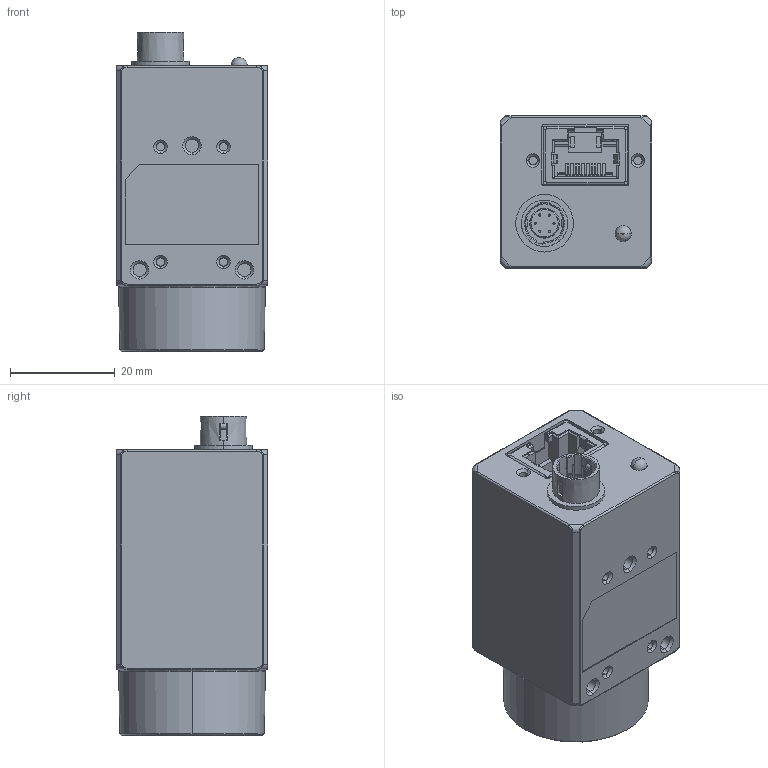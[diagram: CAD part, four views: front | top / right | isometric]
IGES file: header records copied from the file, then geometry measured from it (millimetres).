
Start section:  PTC IGES file: MV-CA004-10GMGC.igs
Global section: file name: MV-CA004-10GMGC.igs; native system: Creo Parametric by PTC Inc.; preprocessor: 2017260; author: wangyijun6; organization: Unknown; date: 20200309.200921; units: millimetre
Bounding box: 29 x 29 x 60.88 mm (x, y, z)
Volume: 34032.6 mm3; surface area: 14310.1 mm2
Topology: 1 solids, 1 shells, 1196 faces, 3515 edges, 2292 vertices
Faces by surface type: bspline 835, revolution 361
